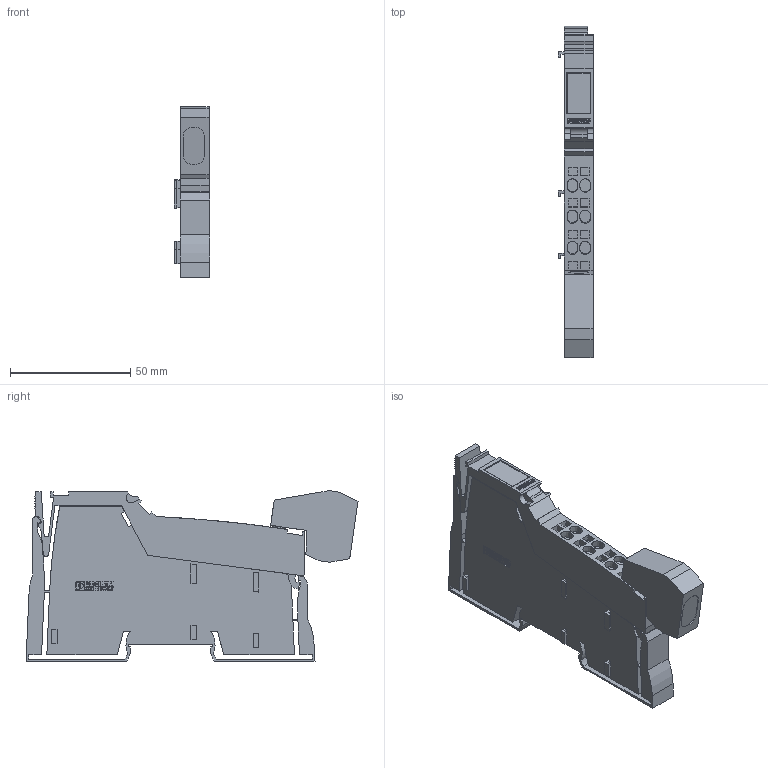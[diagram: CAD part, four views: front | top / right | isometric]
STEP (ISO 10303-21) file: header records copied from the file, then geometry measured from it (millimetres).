
FILE_DESCRIPTION(('SolidDesigner STEP Export'),'2;1');
FILE_NAME('2701217_IB_IL_TEMP_2_RTD_XC_PAC-select.stp','2015-03-26T 8:05:21',(''),(''),'Creo Elements/Direct Modeling STEP processor for AP214 (Solid Model)','Creo Elements/Direct Modeling 18.1 06-May-2012 (C) Parametric Technology GmbH','');
FILE_SCHEMA(('AUTOMOTIVE_DESIGN { 1 0 10303 214 1 1 1 1 }'));
Length unit declared in the file: millimetre
Products named in the file (3): IB_IL_L-L_2; IB_IL_SCN-6_SHIELD_TWIN; 2701217_IB_IL_TEMP_2_RTD_XC_PAC-select
Assembly tree (2 placements, depth 2):
  2701217_IB_IL_TEMP_2_RTD_XC_PAC-select
    IB_IL_SCN-6_SHIELD_TWIN
    IB_IL_L-L_2
Bounding box: 14.55 x 137.85 x 70.91 mm (x, y, z)
Volume: 83064.7 mm3; surface area: 34003 mm2
Topology: 2 solids, 2 shells, 819 faces, 2193 edges, 1458 vertices
Faces by surface type: plane 697, extrusion 82, cylinder 40
Entity records: 37271 total; most frequent: CARTESIAN_POINT 10509, ORIENTED_EDGE 4386, DIRECTION 3618, EDGE_CURVE 2193, VECTOR 1990, LINE 1908, VERTEX_POINT 1458, EDGE_LOOP 905
